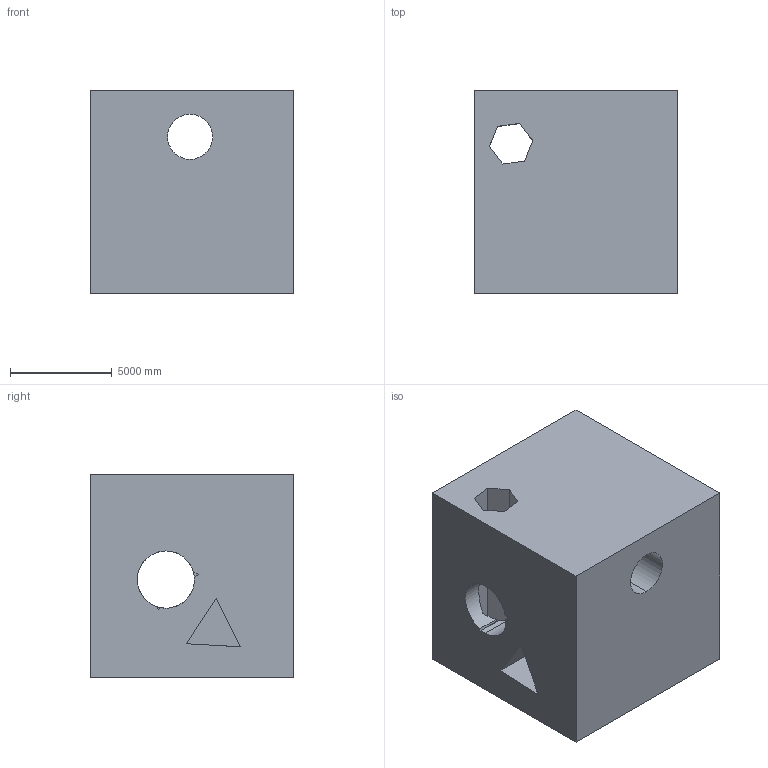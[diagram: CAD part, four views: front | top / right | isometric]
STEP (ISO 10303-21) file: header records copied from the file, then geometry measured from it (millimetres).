
FILE_DESCRIPTION (( 'STEP AP203' ), '1' );
FILE_NAME ('694.STEP', '2022-07-29T12:34:22', ( 'user' ), ( '' ), 'SwSTEP 2.0', 'SolidWorks 2021', '' );
FILE_SCHEMA (( 'CONFIG_CONTROL_DESIGN' ));
Length unit declared in the file: centimetre
Products named in the file (1): 694
Bounding box: 10000 x 10000 x 10000 mm (x, y, z)
Volume: 840222066537.4 mm3; surface area: 855188581 mm2
Topology: 1 solids, 1 shells, 42 faces, 120 edges, 80 vertices
Faces by surface type: plane 34, cylinder 8
Entity records: 1461 total; most frequent: CARTESIAN_POINT 273, ORIENTED_EDGE 240, DIRECTION 216, EDGE_CURVE 120, VECTOR 90, LINE 90, VERTEX_POINT 80, AXIS2_PLACEMENT_3D 63
